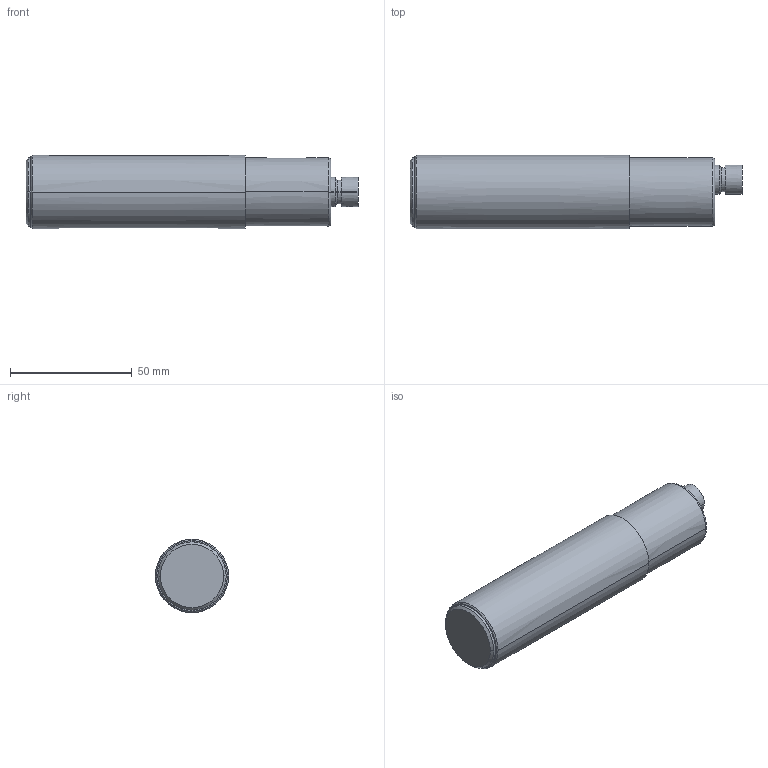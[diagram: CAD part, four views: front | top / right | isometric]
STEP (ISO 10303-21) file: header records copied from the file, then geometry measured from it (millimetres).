
FILE_DESCRIPTION((''),'2;1');
FILE_NAME('873P_DCAXXS_D5','2012-07-25T',('Administrator'),(''),'PRO/ENGINEER BY PARAMETRIC TECHNOLOGY CORPORATION, 2006010','PRO/ENGINEER BY PARAMETRIC TECHNOLOGY CORPORATION, 2006010','');
FILE_SCHEMA(('CONFIG_CONTROL_DESIGN'));
Length unit declared in the file: millimetre
Products named in the file (1): 873P_DCAXXS_D5
Bounding box: 136.2 x 30 x 30 mm (x, y, z)
Surface area: 14064 mm2 (no closed solid volume)
Topology: 0 solids, 0 shells, 26 faces, 139 edges, 157 vertices
Faces by surface type: bspline 24, torus 2
Entity records: 3288 total; most frequent: CARTESIAN_POINT 2154, DIRECTION 208, TRIMMED_CURVE 153, VECTOR 104, LINE 104, DEFINITIONAL_REPRESENTATION 100, PCURVE 100, COMPOSITE_CURVE_SEGMENT 100
